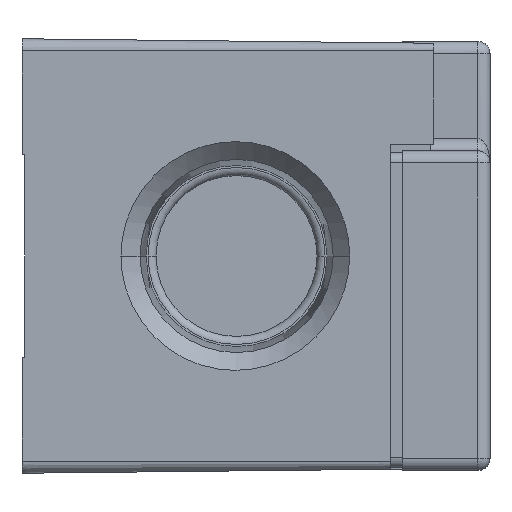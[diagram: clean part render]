
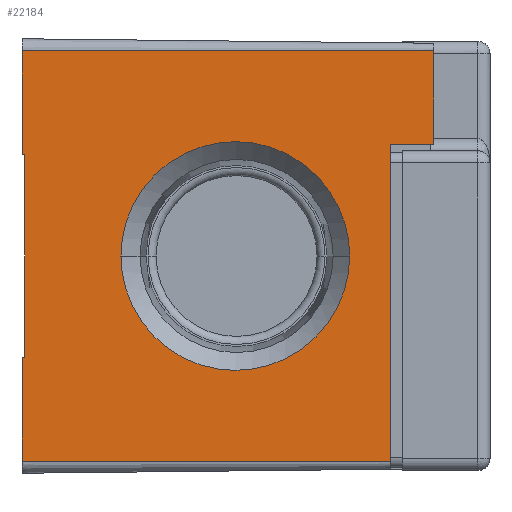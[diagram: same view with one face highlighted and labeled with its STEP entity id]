
A CAD part, front view. The second image highlights one B-rep face of the part: STEP entity #22184.
In plain terms, the highlighted planar face has unit normal (0.011, -1, 0).
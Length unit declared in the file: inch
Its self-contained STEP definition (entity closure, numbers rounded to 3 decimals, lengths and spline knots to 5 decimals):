
#17155=DIRECTION('',(0.,0.,1.));
#17156=VECTOR('',#17155,1.182);
#17157=CARTESIAN_POINT('',(0.53,-3.18912,-0.765));
#17158=LINE('',#17157,#17156);
#17555=DIRECTION('',(0.,0.,1.));
#17556=VECTOR('',#17555,0.756);
#17557=CARTESIAN_POINT('',(-0.835,-3.20389,-0.378));
#17558=LINE('',#17557,#17556);
#17559=DIRECTION('',(1.,0.011,0.));
#17560=VECTOR('',#17559,0.01);
#17561=CARTESIAN_POINT('',(-0.845,-3.204,0.378));
#17562=LINE('',#17561,#17560);
#17563=DIRECTION('',(0.,0.,1.));
#17564=VECTOR('',#17563,0.387);
#17565=CARTESIAN_POINT('',(-0.845,-3.204,0.378));
#17566=LINE('',#17565,#17564);
#17567=DIRECTION('',(0.,0.,1.));
#17568=VECTOR('',#17567,0.348);
#17569=CARTESIAN_POINT('',(0.69,-3.18739,0.417));
#17570=LINE('',#17569,#17568);
#17571=DIRECTION('',(-1.,-0.011,0.));
#17572=VECTOR('',#17571,0.16001);
#17573=CARTESIAN_POINT('',(0.69,-3.18739,0.417));
#17574=LINE('',#17573,#17572);
#17575=DIRECTION('',(0.,0.,1.));
#17576=VECTOR('',#17575,0.387);
#17577=CARTESIAN_POINT('',(-0.845,-3.204,-0.765));
#17578=LINE('',#17577,#17576);
#17579=DIRECTION('',(1.,0.011,0.));
#17580=VECTOR('',#17579,0.01);
#17581=CARTESIAN_POINT('',(-0.845,-3.204,-0.378));
#17582=LINE('',#17581,#17580);
#17583=CARTESIAN_POINT('',(0.37678,-3.19078,0.));
#17584=CARTESIAN_POINT('',(0.37678,-3.19078,
-0.02512));
#17585=CARTESIAN_POINT('',(0.37232,-3.19083,
-0.07725));
#17586=CARTESIAN_POINT('',(0.34969,-3.19107,
-0.15743));
#17587=CARTESIAN_POINT('',(0.30997,-3.1915,
-0.23469));
#17588=CARTESIAN_POINT('',(0.25407,-3.19211,
-0.30367));
#17589=CARTESIAN_POINT('',(0.19659,-3.19273,
-0.35024));
#17590=CARTESIAN_POINT('',(0.14646,-3.19327,
-0.37943));
#17591=CARTESIAN_POINT('',(0.10746,-3.19369,
-0.39714));
#17592=CARTESIAN_POINT('',(0.06773,-3.19412,
-0.4106));
#17593=CARTESIAN_POINT('',(0.03453,-3.19448,
-0.41836));
#17594=CARTESIAN_POINT('',(0.00822,-3.19477,
-0.42258));
#17595=CARTESIAN_POINT('',(-0.01134,-3.19498,
-0.4248));
#17596=CARTESIAN_POINT('',(-0.02743,-3.19515,
-0.42587));
#17597=CARTESIAN_POINT('',(-0.04017,-3.19529,
-0.4263));
#17598=CARTESIAN_POINT('',(-0.04961,-3.19539,
-0.4264));
#17599=CARTESIAN_POINT('',(-0.05906,-3.19549,
-0.4263));
#17600=CARTESIAN_POINT('',(-0.07179,-3.19563,
-0.42587));
#17601=CARTESIAN_POINT('',(-0.08789,-3.19581,
-0.4248));
#17602=CARTESIAN_POINT('',(-0.10744,-3.19602,
-0.42258));
#17603=CARTESIAN_POINT('',(-0.13376,-3.1963,
-0.41836));
#17604=CARTESIAN_POINT('',(-0.16696,-3.19666,
-0.4106));
#17605=CARTESIAN_POINT('',(-0.20669,-3.19709,
-0.39714));
#17606=CARTESIAN_POINT('',(-0.24569,-3.19751,
-0.37943));
#17607=CARTESIAN_POINT('',(-0.29582,-3.19806,
-0.35024));
#17608=CARTESIAN_POINT('',(-0.3533,-3.19868,
-0.30367));
#17609=CARTESIAN_POINT('',(-0.4092,-3.19928,
-0.23469));
#17610=CARTESIAN_POINT('',(-0.44892,-3.19971,
-0.15743));
#17611=CARTESIAN_POINT('',(-0.47154,-3.19996,
-0.07725));
#17612=CARTESIAN_POINT('',(-0.47601,-3.20001,
-0.02512));
#17613=CARTESIAN_POINT('',(-0.47601,-3.20001,0.));
#17615=CARTESIAN_POINT('',(-0.47601,-3.20001,0.));
#17616=CARTESIAN_POINT('',(-0.47601,-3.20001,
0.02512));
#17617=CARTESIAN_POINT('',(-0.47154,-3.19996,
0.07725));
#17618=CARTESIAN_POINT('',(-0.44892,-3.19971,
0.15743));
#17619=CARTESIAN_POINT('',(-0.4092,-3.19928,
0.23469));
#17620=CARTESIAN_POINT('',(-0.3533,-3.19868,
0.30367));
#17621=CARTESIAN_POINT('',(-0.29582,-3.19806,
0.35024));
#17622=CARTESIAN_POINT('',(-0.24569,-3.19751,
0.37943));
#17623=CARTESIAN_POINT('',(-0.20669,-3.19709,
0.39714));
#17624=CARTESIAN_POINT('',(-0.16696,-3.19666,
0.4106));
#17625=CARTESIAN_POINT('',(-0.13376,-3.1963,
0.41836));
#17626=CARTESIAN_POINT('',(-0.10744,-3.19602,
0.42258));
#17627=CARTESIAN_POINT('',(-0.08789,-3.19581,
0.4248));
#17628=CARTESIAN_POINT('',(-0.07179,-3.19563,
0.42587));
#17629=CARTESIAN_POINT('',(-0.05906,-3.19549,
0.4263));
#17630=CARTESIAN_POINT('',(-0.04961,-3.19539,
0.4264));
#17631=CARTESIAN_POINT('',(-0.04017,-3.19529,
0.4263));
#17632=CARTESIAN_POINT('',(-0.02743,-3.19515,
0.42587));
#17633=CARTESIAN_POINT('',(-0.01134,-3.19498,
0.4248));
#17634=CARTESIAN_POINT('',(0.00822,-3.19477,
0.42258));
#17635=CARTESIAN_POINT('',(0.03453,-3.19448,
0.41836));
#17636=CARTESIAN_POINT('',(0.06773,-3.19412,
0.4106));
#17637=CARTESIAN_POINT('',(0.10746,-3.19369,
0.39714));
#17638=CARTESIAN_POINT('',(0.14646,-3.19327,
0.37943));
#17639=CARTESIAN_POINT('',(0.19659,-3.19273,
0.35024));
#17640=CARTESIAN_POINT('',(0.25407,-3.19211,
0.30367));
#17641=CARTESIAN_POINT('',(0.30997,-3.1915,
0.23469));
#17642=CARTESIAN_POINT('',(0.34969,-3.19107,
0.15743));
#17643=CARTESIAN_POINT('',(0.37232,-3.19083,
0.07725));
#17644=CARTESIAN_POINT('',(0.37678,-3.19078,
0.02512));
#17645=CARTESIAN_POINT('',(0.37678,-3.19078,0.));
#17866=DIRECTION('',(1.,0.011,0.));
#17867=VECTOR('',#17866,1.53509);
#17868=CARTESIAN_POINT('',(-0.845,-3.204,0.765));
#17869=LINE('',#17868,#17867);
#18292=DIRECTION('',(1.,0.011,0.));
#18293=VECTOR('',#18292,1.37508);
#18294=CARTESIAN_POINT('',(-0.845,-3.204,-0.765));
#18295=LINE('',#18294,#18293);
#19828=CARTESIAN_POINT('',(0.69,-3.18739,0.417));
#19829=CARTESIAN_POINT('',(0.53,-3.18912,0.417));
#19830=VERTEX_POINT('',#19828);
#19831=VERTEX_POINT('',#19829);
#19836=CARTESIAN_POINT('',(-0.845,-3.204,0.765));
#19837=CARTESIAN_POINT('',(0.69,-3.18739,0.765));
#19838=VERTEX_POINT('',#19836);
#19839=VERTEX_POINT('',#19837);
#19844=CARTESIAN_POINT('',(-0.845,-3.204,-0.765));
#19845=CARTESIAN_POINT('',(0.53,-3.18912,-0.765));
#19846=VERTEX_POINT('',#19844);
#19847=VERTEX_POINT('',#19845);
#19864=CARTESIAN_POINT('',(-0.835,-3.20389,-0.378));
#19865=CARTESIAN_POINT('',(-0.835,-3.20389,0.378));
#19866=VERTEX_POINT('',#19864);
#19867=VERTEX_POINT('',#19865);
#19868=CARTESIAN_POINT('',(-0.845,-3.204,-0.378));
#19869=VERTEX_POINT('',#19868);
#19870=CARTESIAN_POINT('',(-0.845,-3.204,0.378));
#19871=VERTEX_POINT('',#19870);
#19872=VERTEX_POINT('',#17583);
#19873=VERTEX_POINT('',#17613);
#22156=CARTESIAN_POINT('',(-0.845,-3.204,-1.81479));
#22157=DIRECTION('',(0.011,-1.,0.));
#22158=DIRECTION('',(0.,0.,1.));
#22159=AXIS2_PLACEMENT_3D('',#22156,#22157,#22158);
#22160=PLANE('',#22159);
#22161=ORIENTED_EDGE('',*,*,#22058,.T.);
#22163=ORIENTED_EDGE('',*,*,#22162,.F.);
#22165=ORIENTED_EDGE('',*,*,#22164,.T.);
#22167=ORIENTED_EDGE('',*,*,#22166,.T.);
#22169=ORIENTED_EDGE('',*,*,#22168,.F.);
#22170=ORIENTED_EDGE('',*,*,#21582,.T.);
#22171=ORIENTED_EDGE('',*,*,#21636,.F.);
#22173=ORIENTED_EDGE('',*,*,#22172,.F.);
#22174=ORIENTED_EDGE('',*,*,#22129,.T.);
#22175=ORIENTED_EDGE('',*,*,#22151,.T.);
#22176=EDGE_LOOP('',(#22161,#22163,#22165,#22167,#22169,#22170,#22171,#22173,
#22174,#22175));
#22177=FACE_OUTER_BOUND('',#22176,.F.);
#22179=ORIENTED_EDGE('',*,*,#22178,.F.);
#22181=ORIENTED_EDGE('',*,*,#22180,.F.);
#22182=EDGE_LOOP('',(#22179,#22181));
#22183=FACE_BOUND('',#22182,.F.);
#22184=ADVANCED_FACE('',(#22177,#22183),#22160,.T.);
#17614=B_SPLINE_CURVE_WITH_KNOTS('',3,(#17583,#17584,#17585,#17586,#17587,
#17588,#17589,#17590,#17591,#17592,#17593,#17594,#17595,#17596,#17597,#17598,
#17599,#17600,#17601,#17602,#17603,#17604,#17605,#17606,#17607,#17608,#17609,
#17610,#17611,#17612,#17613),.UNSPECIFIED.,.F.,.F.,(4,1,1,1,1,1,1,1,1,1,1,1,1,1,
1,1,1,1,1,1,1,1,1,1,1,1,1,1,4),(0.,0.0625,0.125,0.1875,0.25,0.3125,
0.34375,0.375,0.40625,0.4375,0.45313,0.46875,0.48438,
0.49219,0.5,0.50781,0.51563,0.53125,0.54688,0.5625,
0.59375,0.625,0.65625,0.6875,0.75,0.8125,0.875,0.9375,1.),
.UNSPECIFIED.);
#17646=B_SPLINE_CURVE_WITH_KNOTS('',3,(#17615,#17616,#17617,#17618,#17619,
#17620,#17621,#17622,#17623,#17624,#17625,#17626,#17627,#17628,#17629,#17630,
#17631,#17632,#17633,#17634,#17635,#17636,#17637,#17638,#17639,#17640,#17641,
#17642,#17643,#17644,#17645),.UNSPECIFIED.,.F.,.F.,(4,1,1,1,1,1,1,1,1,1,1,1,1,1,
1,1,1,1,1,1,1,1,1,1,1,1,1,1,4),(0.,0.0625,0.125,0.1875,0.25,0.3125,
0.34375,0.375,0.40625,0.4375,0.45313,0.46875,0.48438,
0.49219,0.5,0.50781,0.51563,0.53125,0.54688,0.5625,
0.59375,0.625,0.65625,0.6875,0.75,0.8125,0.875,0.9375,1.),
.UNSPECIFIED.);
#21582=EDGE_CURVE('',#19830,#19831,#17574,.T.);
#21636=EDGE_CURVE('',#19847,#19831,#17158,.T.);
#22058=EDGE_CURVE('',#19866,#19867,#17558,.T.);
#22129=EDGE_CURVE('',#19846,#19869,#17578,.T.);
#22151=EDGE_CURVE('',#19869,#19866,#17582,.T.);
#22162=EDGE_CURVE('',#19871,#19867,#17562,.T.);
#22164=EDGE_CURVE('',#19871,#19838,#17566,.T.);
#22166=EDGE_CURVE('',#19838,#19839,#17869,.T.);
#22168=EDGE_CURVE('',#19830,#19839,#17570,.T.);
#22172=EDGE_CURVE('',#19846,#19847,#18295,.T.);
#22178=EDGE_CURVE('',#19872,#19873,#17614,.T.);
#22180=EDGE_CURVE('',#19873,#19872,#17646,.T.);
